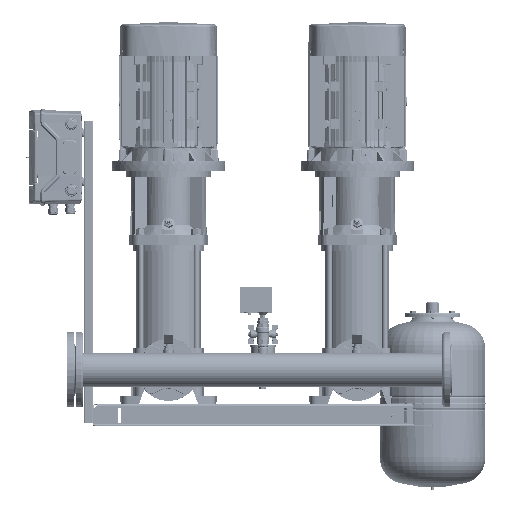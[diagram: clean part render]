
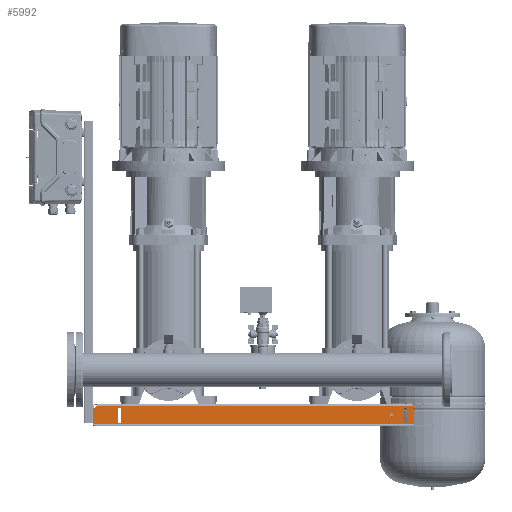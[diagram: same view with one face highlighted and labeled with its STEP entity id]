
A CAD part, front view. The second image highlights one B-rep face of the part: STEP entity #5992.
In plain terms, the highlighted planar face has unit normal (0, -1, 0) as drawn and (0, 0, 1) by its records, which use the part's own axes.
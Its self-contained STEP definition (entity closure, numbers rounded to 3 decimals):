
#5269=CARTESIAN_POINT('Vertex',(-891.329,-7.,130.)) ;
#5330=CARTESIAN_POINT('Vertex',(-8.671,-7.,130.)) ;
#5436=CARTESIAN_POINT('Line Origine',(-450.,-7.,130.)) ;
#5453=CARTESIAN_POINT('Axis2P3D Location',(-2.877,-3.072,130.)) ;
#5457=CARTESIAN_POINT('Vertex',(-4.115,-9.962,130.)) ;
#5495=CARTESIAN_POINT('Vertex',(-895.885,-9.962,130.)) ;
#5498=CARTESIAN_POINT('Axis2P3D Location',(-897.123,-3.072,130.)) ;
#5526=CARTESIAN_POINT('Vertex',(-900.,-14.883,130.)) ;
#5529=CARTESIAN_POINT('Axis2P3D Location',(-895.,-14.883,130.)) ;
#5546=CARTESIAN_POINT('Line Origine',(-829.,-12.,130.)) ;
#5550=CARTESIAN_POINT('Vertex',(-833.,-12.,130.)) ;
#5552=CARTESIAN_POINT('Vertex',(-825.,-12.,130.)) ;
#5586=CARTESIAN_POINT('Line Origine',(-825.,-32.,130.)) ;
#5590=CARTESIAN_POINT('Vertex',(-825.,-52.,130.)) ;
#5617=CARTESIAN_POINT('Line Origine',(-829.,-52.,130.)) ;
#5621=CARTESIAN_POINT('Vertex',(-833.,-52.,130.)) ;
#5653=CARTESIAN_POINT('Line Origine',(-833.,-32.,130.)) ;
#5670=CARTESIAN_POINT('Line Origine',(-67.,-32.,130.)) ;
#5674=CARTESIAN_POINT('Vertex',(-67.,-12.,130.)) ;
#5676=CARTESIAN_POINT('Vertex',(-67.,-52.,130.)) ;
#5710=CARTESIAN_POINT('Line Origine',(-71.,-52.,130.)) ;
#5714=CARTESIAN_POINT('Vertex',(-75.,-52.,130.)) ;
#5752=CARTESIAN_POINT('Vertex',(-75.,-12.,130.)) ;
#5755=CARTESIAN_POINT('Line Origine',(-75.,-32.,130.)) ;
#5777=CARTESIAN_POINT('Line Origine',(-71.,-12.,130.)) ;
#5798=CARTESIAN_POINT('Vertex',(0.,-14.883,130.)) ;
#5808=CARTESIAN_POINT('Axis2P3D Location',(-5.,-14.883,130.)) ;
#5829=CARTESIAN_POINT('Vertex',(0.,-53.,130.)) ;
#5839=CARTESIAN_POINT('Line Origine',(0.,-33.941,130.)) ;
#5856=CARTESIAN_POINT('Axis2P3D Location',(-110.,-30.,130.)) ;
#5860=CARTESIAN_POINT('Vertex',(-105.75,-30.,130.)) ;
#5862=CARTESIAN_POINT('Vertex',(-114.25,-30.,130.)) ;
#5896=CARTESIAN_POINT('Axis2P3D Location',(-110.,-30.,130.)) ;
#5930=CARTESIAN_POINT('Line Origine',(-900.,-33.941,130.)) ;
#5934=CARTESIAN_POINT('Vertex',(-900.,-53.,130.)) ;
#5956=CARTESIAN_POINT('Axis2P3D Location',(-450.,0.,130.)) ;
#5961=CARTESIAN_POINT('Line Origine',(-450.,-53.,130.)) ;
#5438=VECTOR('Line Direction',#5437,1.) ;
#5548=VECTOR('Line Direction',#5547,1.) ;
#5588=VECTOR('Line Direction',#5587,1.) ;
#5619=VECTOR('Line Direction',#5618,1.) ;
#5655=VECTOR('Line Direction',#5654,1.) ;
#5672=VECTOR('Line Direction',#5671,1.) ;
#5712=VECTOR('Line Direction',#5711,1.) ;
#5757=VECTOR('Line Direction',#5756,1.) ;
#5779=VECTOR('Line Direction',#5778,1.) ;
#5841=VECTOR('Line Direction',#5840,1.) ;
#5932=VECTOR('Line Direction',#5931,1.) ;
#5963=VECTOR('Line Direction',#5962,1.) ;
#5437=DIRECTION('Vector Direction',(-1.,0.,0.)) ;
#5454=DIRECTION('Axis2P3D Direction',(0.,0.,1.)) ;
#5499=DIRECTION('Axis2P3D Direction',(0.,0.,1.)) ;
#5530=DIRECTION('Axis2P3D Direction',(0.,0.,1.)) ;
#5547=DIRECTION('Vector Direction',(1.,0.,0.)) ;
#5587=DIRECTION('Vector Direction',(0.,-1.,0.)) ;
#5618=DIRECTION('Vector Direction',(1.,0.,0.)) ;
#5654=DIRECTION('Vector Direction',(0.,-1.,0.)) ;
#5671=DIRECTION('Vector Direction',(0.,-1.,0.)) ;
#5711=DIRECTION('Vector Direction',(1.,0.,0.)) ;
#5756=DIRECTION('Vector Direction',(0.,-1.,0.)) ;
#5778=DIRECTION('Vector Direction',(1.,0.,0.)) ;
#5809=DIRECTION('Axis2P3D Direction',(0.,0.,1.)) ;
#5840=DIRECTION('Vector Direction',(0.,1.,0.)) ;
#5857=DIRECTION('Axis2P3D Direction',(0.,0.,1.)) ;
#5897=DIRECTION('Axis2P3D Direction',(0.,0.,1.)) ;
#5931=DIRECTION('Vector Direction',(0.,1.,0.)) ;
#5957=DIRECTION('Axis2P3D Direction',(0.,0.,1.)) ;
#5958=DIRECTION('Axis2P3D XDirection',(-1.,0.,0.)) ;
#5962=DIRECTION('Vector Direction',(1.,0.,0.)) ;
#5455=AXIS2_PLACEMENT_3D('Circle Axis2P3D',#5453,#5454,$) ;
#5500=AXIS2_PLACEMENT_3D('Circle Axis2P3D',#5498,#5499,$) ;
#5531=AXIS2_PLACEMENT_3D('Circle Axis2P3D',#5529,#5530,$) ;
#5810=AXIS2_PLACEMENT_3D('Circle Axis2P3D',#5808,#5809,$) ;
#5858=AXIS2_PLACEMENT_3D('Circle Axis2P3D',#5856,#5857,$) ;
#5898=AXIS2_PLACEMENT_3D('Circle Axis2P3D',#5896,#5897,$) ;
#5959=AXIS2_PLACEMENT_3D('Plane Axis2P3D',#5956,#5957,#5958) ;
#5439=LINE('Line',#5436,#5438) ;
#5549=LINE('Line',#5546,#5548) ;
#5589=LINE('Line',#5586,#5588) ;
#5620=LINE('Line',#5617,#5619) ;
#5656=LINE('Line',#5653,#5655) ;
#5673=LINE('Line',#5670,#5672) ;
#5713=LINE('Line',#5710,#5712) ;
#5758=LINE('Line',#5755,#5757) ;
#5780=LINE('Line',#5777,#5779) ;
#5842=LINE('Line',#5839,#5841) ;
#5933=LINE('Line',#5930,#5932) ;
#5964=LINE('Line',#5961,#5963) ;
#5456=CIRCLE('generated circle',#5455,7.) ;
#5501=CIRCLE('generated circle',#5500,7.) ;
#5532=CIRCLE('generated circle',#5531,5.) ;
#5811=CIRCLE('generated circle',#5810,5.) ;
#5859=CIRCLE('generated circle',#5858,4.25) ;
#5899=CIRCLE('generated circle',#5898,4.25) ;
#5960=PLANE('',#5959) ;
#5981=FACE_BOUND('',#5976,.T.) ;
#5987=FACE_BOUND('',#5982,.T.) ;
#5991=FACE_BOUND('',#5988,.T.) ;
#5440=EDGE_CURVE('',#5270,#5331,#5439,.F.) ;
#5459=EDGE_CURVE('',#5331,#5458,#5456,.T.) ;
#5502=EDGE_CURVE('',#5496,#5270,#5501,.T.) ;
#5533=EDGE_CURVE('',#5496,#5527,#5532,.T.) ;
#5554=EDGE_CURVE('',#5551,#5553,#5549,.T.) ;
#5592=EDGE_CURVE('',#5553,#5591,#5589,.T.) ;
#5623=EDGE_CURVE('',#5622,#5591,#5620,.T.) ;
#5657=EDGE_CURVE('',#5551,#5622,#5656,.T.) ;
#5678=EDGE_CURVE('',#5675,#5677,#5673,.T.) ;
#5716=EDGE_CURVE('',#5715,#5677,#5713,.T.) ;
#5759=EDGE_CURVE('',#5753,#5715,#5758,.T.) ;
#5781=EDGE_CURVE('',#5753,#5675,#5780,.T.) ;
#5812=EDGE_CURVE('',#5799,#5458,#5811,.T.) ;
#5843=EDGE_CURVE('',#5830,#5799,#5842,.T.) ;
#5864=EDGE_CURVE('',#5861,#5863,#5859,.T.) ;
#5900=EDGE_CURVE('',#5863,#5861,#5899,.T.) ;
#5936=EDGE_CURVE('',#5935,#5527,#5933,.T.) ;
#5965=EDGE_CURVE('',#5935,#5830,#5964,.T.) ;
#5967=ORIENTED_EDGE('',*,*,#5459,.F.) ;
#5968=ORIENTED_EDGE('',*,*,#5440,.F.) ;
#5969=ORIENTED_EDGE('',*,*,#5502,.F.) ;
#5970=ORIENTED_EDGE('',*,*,#5533,.T.) ;
#5971=ORIENTED_EDGE('',*,*,#5936,.F.) ;
#5972=ORIENTED_EDGE('',*,*,#5965,.T.) ;
#5973=ORIENTED_EDGE('',*,*,#5843,.T.) ;
#5974=ORIENTED_EDGE('',*,*,#5812,.T.) ;
#5977=ORIENTED_EDGE('',*,*,#5554,.T.) ;
#5978=ORIENTED_EDGE('',*,*,#5592,.T.) ;
#5979=ORIENTED_EDGE('',*,*,#5623,.F.) ;
#5980=ORIENTED_EDGE('',*,*,#5657,.F.) ;
#5983=ORIENTED_EDGE('',*,*,#5678,.T.) ;
#5984=ORIENTED_EDGE('',*,*,#5716,.F.) ;
#5985=ORIENTED_EDGE('',*,*,#5759,.F.) ;
#5986=ORIENTED_EDGE('',*,*,#5781,.T.) ;
#5989=ORIENTED_EDGE('',*,*,#5864,.F.) ;
#5990=ORIENTED_EDGE('',*,*,#5900,.F.) ;
#5966=EDGE_LOOP('',(#5967,#5968,#5969,#5970,#5971,#5972,#5973,#5974)) ;
#5976=EDGE_LOOP('',(#5977,#5978,#5979,#5980)) ;
#5982=EDGE_LOOP('',(#5983,#5984,#5985,#5986)) ;
#5988=EDGE_LOOP('',(#5989,#5990)) ;
#5270=VERTEX_POINT('',#5269) ;
#5331=VERTEX_POINT('',#5330) ;
#5458=VERTEX_POINT('',#5457) ;
#5496=VERTEX_POINT('',#5495) ;
#5527=VERTEX_POINT('',#5526) ;
#5551=VERTEX_POINT('',#5550) ;
#5553=VERTEX_POINT('',#5552) ;
#5591=VERTEX_POINT('',#5590) ;
#5622=VERTEX_POINT('',#5621) ;
#5675=VERTEX_POINT('',#5674) ;
#5677=VERTEX_POINT('',#5676) ;
#5715=VERTEX_POINT('',#5714) ;
#5753=VERTEX_POINT('',#5752) ;
#5799=VERTEX_POINT('',#5798) ;
#5830=VERTEX_POINT('',#5829) ;
#5861=VERTEX_POINT('',#5860) ;
#5863=VERTEX_POINT('',#5862) ;
#5935=VERTEX_POINT('',#5934) ;
#5992=ADVANCED_FACE('PartBody',(#5975,#5981,#5987,#5991),#5960,.T.) ;
#5975=FACE_OUTER_BOUND('',#5966,.T.) ;
